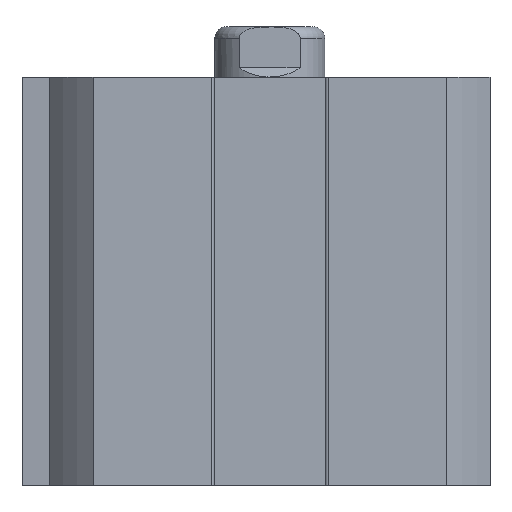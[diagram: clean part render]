
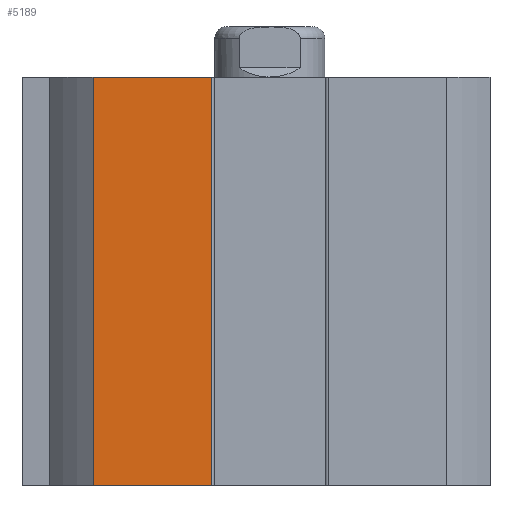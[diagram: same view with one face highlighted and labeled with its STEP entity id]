
A CAD part, left-side view. The second image highlights one B-rep face of the part: STEP entity #5189.
In plain terms, the highlighted planar face has unit normal (-1, 0, 0).
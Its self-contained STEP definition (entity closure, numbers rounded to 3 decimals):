
#112=PLANE('',#5507);
#630=ORIENTED_EDGE('',*,*,#1541,.F.);
#631=ORIENTED_EDGE('',*,*,#1542,.T.);
#632=ORIENTED_EDGE('',*,*,#1416,.F.);
#633=ORIENTED_EDGE('',*,*,#1543,.T.);
#1416=EDGE_CURVE('',#1896,#1893,#2226,.T.);
#1541=EDGE_CURVE('',#1989,#1990,#2305,.T.);
#1542=EDGE_CURVE('',#1989,#1893,#2306,.T.);
#1543=EDGE_CURVE('',#1896,#1990,#2307,.T.);
#1893=VERTEX_POINT('',#7160);
#1896=VERTEX_POINT('',#7165);
#1989=VERTEX_POINT('',#7434);
#1990=VERTEX_POINT('',#7435);
#2226=LINE('',#7166,#2480);
#2305=LINE('',#7433,#2559);
#2306=LINE('',#7436,#2560);
#2307=LINE('',#7437,#2561);
#2480=VECTOR('',#5945,1000.);
#2559=VECTOR('',#6192,1000.);
#2560=VECTOR('',#6193,1000.);
#2561=VECTOR('',#6194,1000.);
#2794=EDGE_LOOP('',(#630,#631,#632,#633));
#3135=FACE_BOUND('',#2794,.T.);
#5189=ADVANCED_FACE('',(#3135),#112,.T.);
#5507=AXIS2_PLACEMENT_3D('',#7432,#6190,#6191);
#5945=DIRECTION('',(0.,0.,1.));
#6190=DIRECTION('',(-1.,0.,0.));
#6191=DIRECTION('',(0.,0.,1.));
#6192=DIRECTION('',(0.,0.,-1.));
#6193=DIRECTION('',(0.,1.,0.));
#6194=DIRECTION('',(0.,-1.,0.));
#7160=CARTESIAN_POINT('',(-23.,19.261,44.5));
#7165=CARTESIAN_POINT('',(-23.,19.261,0.));
#7166=CARTESIAN_POINT('',(-23.,19.261,0.));
#7432=CARTESIAN_POINT('',(-23.,-19.261,0.));
#7433=CARTESIAN_POINT('',(-23.,6.375,39.5));
#7434=CARTESIAN_POINT('',(-23.,6.375,44.5));
#7435=CARTESIAN_POINT('',(-23.,6.375,0.));
#7436=CARTESIAN_POINT('',(-23.,6.375,44.5));
#7437=CARTESIAN_POINT('',(-23.,19.261,0.));
